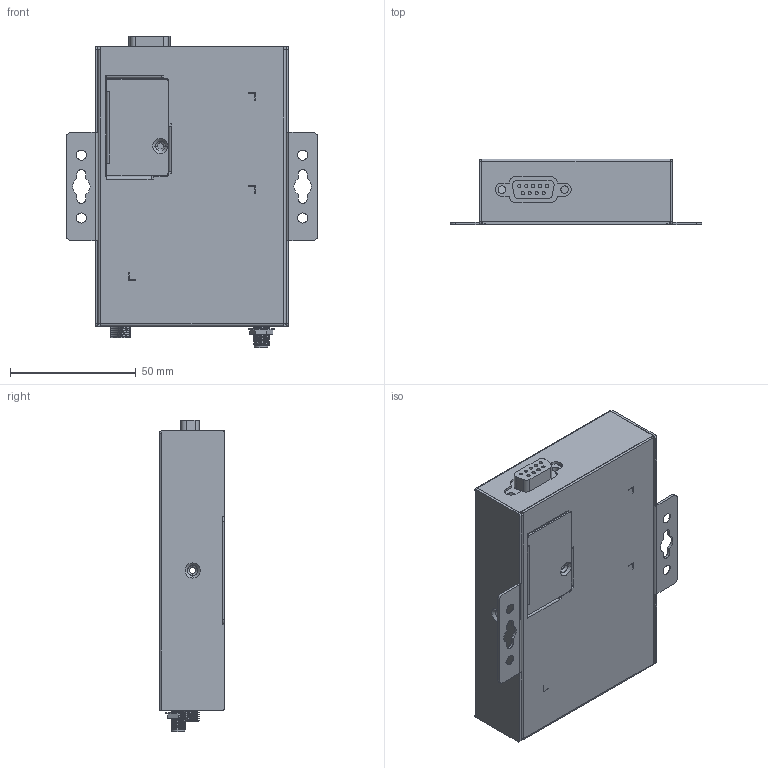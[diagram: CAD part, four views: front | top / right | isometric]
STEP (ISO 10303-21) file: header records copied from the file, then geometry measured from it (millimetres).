
FILE_DESCRIPTION((''),'2;1');
FILE_NAME('ONCELL_G31X1-HSPA','2013-08-08T',('Vincent_Huang'),(''),'PRO/ENGINEER BY PARAMETRIC TECHNOLOGY CORPORATION, 2004320','PRO/ENGINEER BY PARAMETRIC TECHNOLOGY CORPORATION, 2004320','');
FILE_SCHEMA(('CONFIG_CONTROL_DESIGN'));
Length unit declared in the file: millimetre
Products named in the file (1): ONCELL_G31X1-HSPA
Bounding box: 100 x 26 x 123.85 mm (x, y, z)
Volume: 58135.7 mm3; surface area: 93578.1 mm2
Topology: 32 solids, 42 shells, 1704 faces, 4557 edges, 3032 vertices
Faces by surface type: plane 1219, cylinder 406, bspline 51, torus 14, cone 14
Entity records: 58657 total; most frequent: CARTESIAN_POINT 15758, ORIENTED_EDGE 9114, DIRECTION 8386, EDGE_CURVE 4557, VECTOR 3276, LINE 3276, VERTEX_POINT 3032, AXIS2_PLACEMENT_3D 2555
